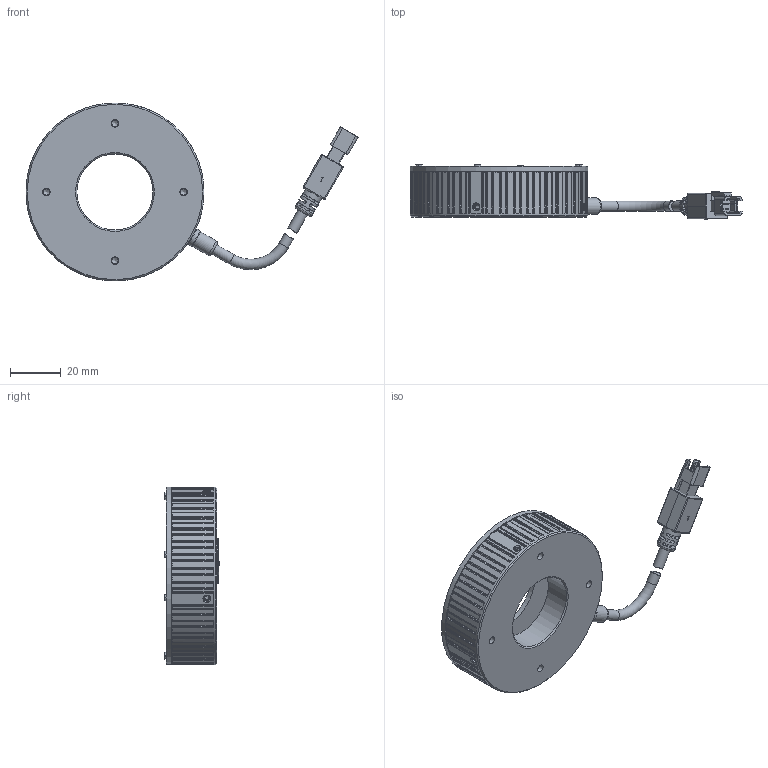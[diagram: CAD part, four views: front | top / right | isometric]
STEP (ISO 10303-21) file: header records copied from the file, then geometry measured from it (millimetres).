
FILE_DESCRIPTION (( 'STEP AP203' ), '1' );
FILE_NAME ('OPT-URI7000-UV-V1.0U 尨砩芞.STEP', '2024-12-11T00:35:06', ( '' ), ( '' ), 'SwSTEP 2.0', 'SolidWorks 2016', '' );
FILE_SCHEMA (( 'CONFIG_CONTROL_DESIGN' ));
Length unit declared in the file: millimetre
Products named in the file (1): OPT-URI7000-UV-V1.0U 尨砩芞
Bounding box: 130.6 x 21.35 x 70 mm (x, y, z)
Volume: 46698.2 mm3; surface area: 24030.1 mm2
Topology: 6 solids, 10 shells, 794 faces, 2148 edges, 1393 vertices
Faces by surface type: plane 412, cylinder 287, cone 66, bspline 21, torus 8
Full cylindrical faces by diameter (mm): 1.4 x4, 1.6 x4, 1.8 x4, 2.2 x4, 2.5 x4, 2.6 x4, 3 x4, 3.5 x1, 4.1 x3, 6.5 x1, 7 x1, 7.5 x1, 30 x2, 31.7 x1, 62 x1, 70 x2
Entity records: 26007 total; most frequent: CARTESIAN_POINT 6906, ORIENTED_EDGE 4088, DIRECTION 3698, EDGE_CURVE 2044, VERTEX_POINT 1364, AXIS2_PLACEMENT_3D 1305, LINE 1088, VECTOR 1088
